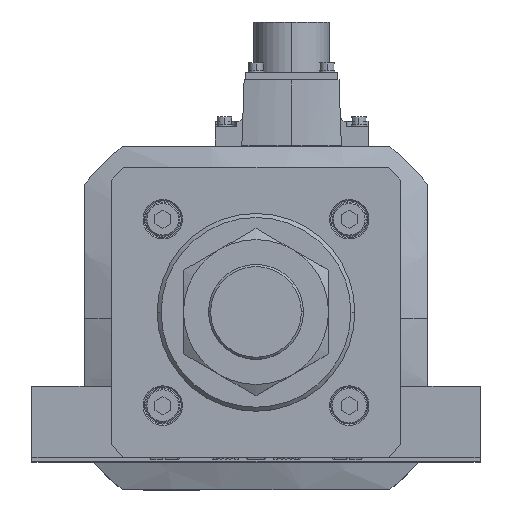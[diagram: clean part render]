
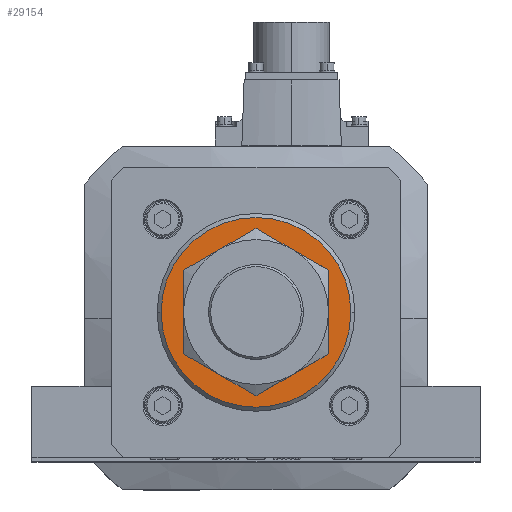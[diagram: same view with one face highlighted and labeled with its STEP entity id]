
A CAD part, top view. The second image highlights one B-rep face of the part: STEP entity #29154.
In plain terms, the highlighted planar face has unit normal (0, 0, 1).
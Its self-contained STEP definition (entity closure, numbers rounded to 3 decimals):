
#199 = CARTESIAN_POINT ( 'NONE',  ( 36., 0., 996. ) ) ;
#1390 = PLANE ( 'NONE',  #10476 ) ;
#1523 = DIRECTION ( 'NONE',  ( 0., 0., 1. ) ) ;
#2144 = EDGE_LOOP ( 'NONE', ( #15827, #3396 ) ) ;
#2712 = DIRECTION ( 'NONE',  ( 0., 0., -1. ) ) ;
#3396 = ORIENTED_EDGE ( 'NONE', *, *, #30234, .T. ) ;
#3618 = VERTEX_POINT ( 'NONE', #199 ) ;
#4893 = DIRECTION ( 'NONE',  ( 0., 0., 1. ) ) ;
#7127 = CIRCLE ( 'NONE', #26505, 36. ) ;
#7495 = CIRCLE ( 'NONE', #16467, 36. ) ;
#7713 = CARTESIAN_POINT ( 'NONE',  ( 0., 0., 996. ) ) ;
#9758 = FACE_BOUND ( 'NONE', #2144, .T. ) ;
#10137 = DIRECTION ( 'NONE',  ( 1., 0., 0. ) ) ;
#10476 = AXIS2_PLACEMENT_3D ( 'NONE', #21858, #1523, #31018 ) ;
#11931 = VERTEX_POINT ( 'NONE', #36445 ) ;
#12854 = VERTEX_POINT ( 'NONE', #15179 ) ;
#13075 = CARTESIAN_POINT ( 'NONE',  ( -23., 0., 996. ) ) ;
#13707 = EDGE_CURVE ( 'NONE', #12854, #3618, #7495, .T. ) ;
#14219 = DIRECTION ( 'NONE',  ( 1., 0., 0. ) ) ;
#15179 = CARTESIAN_POINT ( 'NONE',  ( -36., 0., 996. ) ) ;
#15827 = ORIENTED_EDGE ( 'NONE', *, *, #30560, .T. ) ;
#16091 = AXIS2_PLACEMENT_3D ( 'NONE', #21888, #30537, #10137 ) ;
#16467 = AXIS2_PLACEMENT_3D ( 'NONE', #25195, #25325, #36806 ) ;
#18850 = CIRCLE ( 'NONE', #16091, 23. ) ;
#19080 = AXIS2_PLACEMENT_3D ( 'NONE', #37526, #2712, #14219 ) ;
#19778 = CIRCLE ( 'NONE', #19080, 23. ) ;
#21097 = VERTEX_POINT ( 'NONE', #13075 ) ;
#21685 = ORIENTED_EDGE ( 'NONE', *, *, #13707, .T. ) ;
#21858 = CARTESIAN_POINT ( 'NONE',  ( 0., 0., 996. ) ) ;
#21888 = CARTESIAN_POINT ( 'NONE',  ( 0., 0., 996. ) ) ;
#23678 = EDGE_CURVE ( 'NONE', #3618, #12854, #7127, .T. ) ;
#25195 = CARTESIAN_POINT ( 'NONE',  ( 0., 0., 996. ) ) ;
#25215 = EDGE_LOOP ( 'NONE', ( #21685, #36310 ) ) ;
#25325 = DIRECTION ( 'NONE',  ( 0., 0., 1. ) ) ;
#26505 = AXIS2_PLACEMENT_3D ( 'NONE', #7713, #4893, #33727 ) ;
#29154 = ADVANCED_FACE ( 'NONE', ( #9758, #33964 ), #1390, .T. ) ;
#30234 = EDGE_CURVE ( 'NONE', #21097, #11931, #18850, .T. ) ;
#30537 = DIRECTION ( 'NONE',  ( 0., 0., -1. ) ) ;
#30560 = EDGE_CURVE ( 'NONE', #11931, #21097, #19778, .T. ) ;
#31018 = DIRECTION ( 'NONE',  ( 1., 0., 0. ) ) ;
#33727 = DIRECTION ( 'NONE',  ( 1., 0., 0. ) ) ;
#33964 = FACE_OUTER_BOUND ( 'NONE', #25215, .T. ) ;
#36310 = ORIENTED_EDGE ( 'NONE', *, *, #23678, .T. ) ;
#36445 = CARTESIAN_POINT ( 'NONE',  ( 23., 0., 996. ) ) ;
#36806 = DIRECTION ( 'NONE',  ( 1., 0., 0. ) ) ;
#37526 = CARTESIAN_POINT ( 'NONE',  ( 0., 0., 996. ) ) ;
